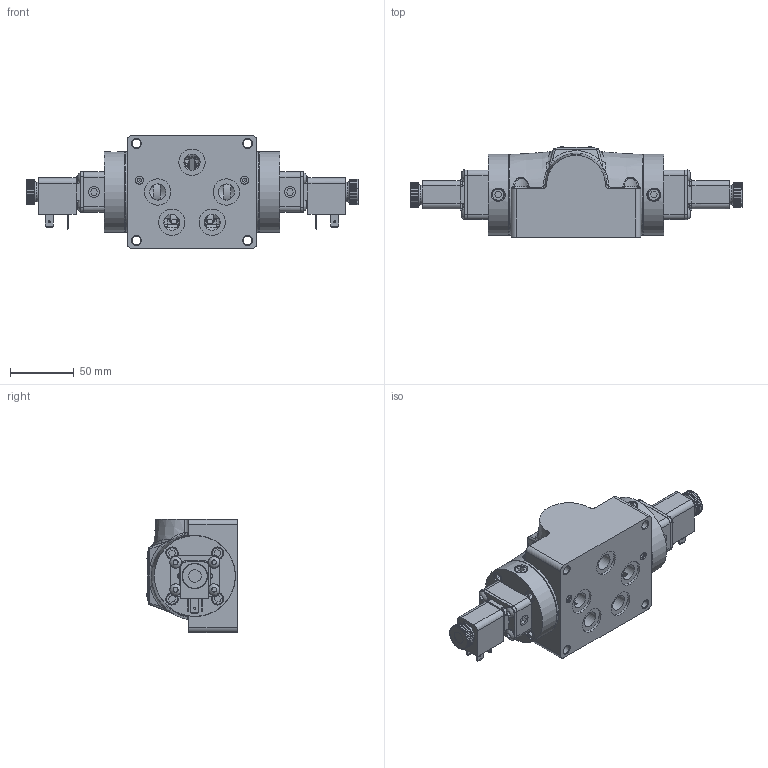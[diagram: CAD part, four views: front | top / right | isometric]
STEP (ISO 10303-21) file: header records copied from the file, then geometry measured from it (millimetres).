
FILE_DESCRIPTION(/* description */ (''),/* implementation_level */ '2;1');
FILE_NAME(/* name */ 'D:\Website Files\stp\Valves\Standard\ESY\ESY4PL.stp',/* time_stamp */ '2015-09-29T14:00:06-04:00',/* author */ ('RMcKenna'),/* organization */ (''),/* preprocessor_version */ 'ST-DEVELOPER v15.6',/* originating_system */ 'Autodesk Inventor 2015',/* authorisation */ '');
FILE_SCHEMA (('AUTOMOTIVE_DESIGN { 1 0 10303 214 3 1 1 }'));
Products named in the file (1): Part70
Bounding box: 260.72 x 71.21 x 88.9 mm (x, y, z)
Volume: 606454.2 mm3; surface area: 148046 mm2
Topology: 4 solids, 42 shells, 3003 faces, 7556 edges, 4811 vertices
Faces by surface type: plane 1355, cylinder 768, cone 337, bspline 335, torus 182, sphere 26
Full cylindrical faces by diameter (mm): 1.3 x2, 1.397 x2, 1.5 x2, 1.651 x6, 2.007 x4, 2.032 x8, 2.07 x2, 2.261 x2, 2.35 x8, 2.388 x2, 2.464 x2, 2.778 x2, 2.8 x2, 2.819 x2, 3 x8, 3.048 x8, 3.175 x6, 3.4 x2, 3.683 x11, 4.191 x4, 4.826 x8, 4.953 x2, 4.978 x8, 5.15 x8, 5.156 x8, 5.5 x2, 6.35 x10, 6.553 x2, 6.629 x4, 6.747 x8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
Entity records: 102160 total; most frequent: CARTESIAN_POINT 31997, ORIENTED_EDGE 13858, DIRECTION 13198, EDGE_CURVE 6925, AXIS2_PLACEMENT_3D 5026, VERTEX_POINT 4597, EDGE_LOOP 3704, LINE 3146
